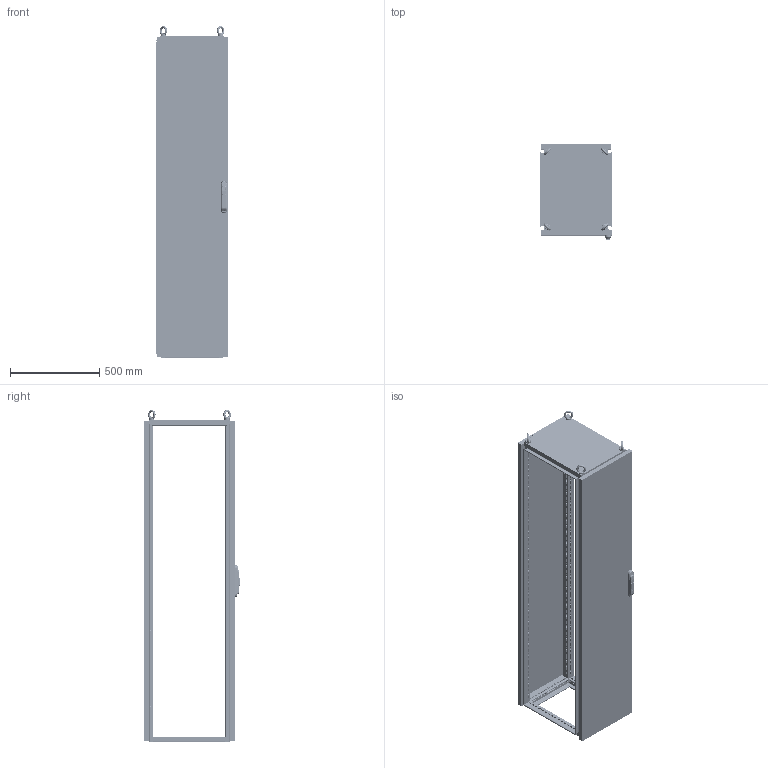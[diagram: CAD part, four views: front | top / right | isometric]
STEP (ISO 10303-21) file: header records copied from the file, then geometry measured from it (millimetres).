
FILE_DESCRIPTION(/* description */ ('Unknown'),/* implementation_level */ '2;1');
FILE_NAME(/* name */ 'MCA04018050',/* time_stamp */ '2025-03-06T15:51:17+01:00',/* author */ ('Unknown'),/* organization */ ('Unknown'),/* preprocessor_version */ 'ST-DEVELOPER v19.4',/* originating_system */ 'Solid Edge',/* authorisation */ 'Unknown');
FILE_SCHEMA (('CONFIG_CONTROL_DESIGN'));
Products named in the file (41): MCA04018050; F0000001.24; AE00198.03; M000X001.83; M0000000.29; AE00500.10; M000X001.47; M0000001.25; M0000000.44; M0000000.06; AE00219.03; AE00715.01; M000X001.48; M0000001.26; F000X004.67; F000X004.68; F0000002.97; F0000000.07; AE00100.03_oa_0; AE00100.03_oa_1; AE00100.03_oa_2; AE00100.03_oa_3; M0000000.37; AE00701.03; F0000000.13; F000X004.70; F000X004.69; F0000002.98; F0000000.12; AE00222.15; AE00316.01; AE00413.05; AE00992.10_oa_4; AE00992.31; AE00315.01; AE00992.74 ; AE00992.18; AE00992.16; AE00636.02; AE00417.01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
Assembly tree (180 placements, depth 4):
  MCA04018050
    F0000001.24  x4
    AE00198.03  x16
    M000X001.83
      M0000000.29  x4
      AE00500.10  x48
      M000X001.47  x2
        M0000001.25
        M0000000.44
        M0000000.06
    AE00219.03  x8
    AE00715.01  x4
    M000X001.48
      M0000001.26
    F000X004.67
      F000X004.68
        F0000002.97
      F0000000.07  x2
      AE00100.03_oa_0
      AE00100.03_oa_1
      AE00100.03_oa_2
      AE00100.03_oa_3
    M0000000.37  x8
    AE00701.03  x4
    F0000000.13  x4
    F000X004.70
      F000X004.69
        F0000002.98
      F0000000.12  x8
      AE00222.15  x8
      AE00316.01  x8
      AE00413.05  x4
      AE00992.10_oa_4
      AE00992.31
      AE00315.01  x4
      AE00992.74   x2
      AE00992.18  x4
      AE00992.16
      AE00636.02  x8
      AE00417.01  x2
    F0000000.08  x4
Bounding box: 400 x 538.2 x 1856.95 mm (x, y, z)
Volume: 10625594.4 mm3; surface area: 8267263.4 mm2
Topology: 183 solids, 183 shells, 8766 faces, 24652 edges, 16401 vertices
Faces by surface type: plane 6369, cylinder 1799, cone 534, torus 42, bspline 14, sphere 8
Full cylindrical faces by diameter (mm): 2 x4, 3 x1, 3.242 x2, 4 x12, 4.134 x5, 4.5 x768, 4.917 x65, 4.918 x8, 5 x6, 6 x58, 6.1 x20, 6.2 x8, 6.5 x20, 7.5 x2, 8.3 x8, 8.5 x2, 9 x48, 10.106 x8, 10.5 x16, 11.8 x8, 12 x12, 13 x4, 14 x1, 16 x1, 17 x1, 23 x2, 30 x4
Entity records: 65193 total; most frequent: CARTESIAN_POINT 11555, ORIENTED_EDGE 10114, DIRECTION 9933, EDGE_CURVE 5057, LINE 4097, VECTOR 4097, VERTEX_POINT 3544, FACE_BOUND 3093
